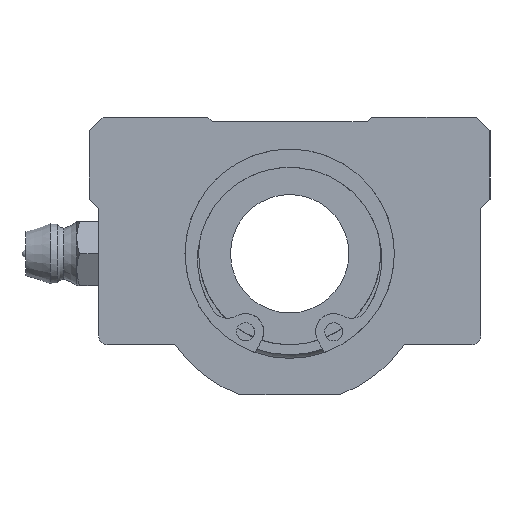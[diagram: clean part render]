
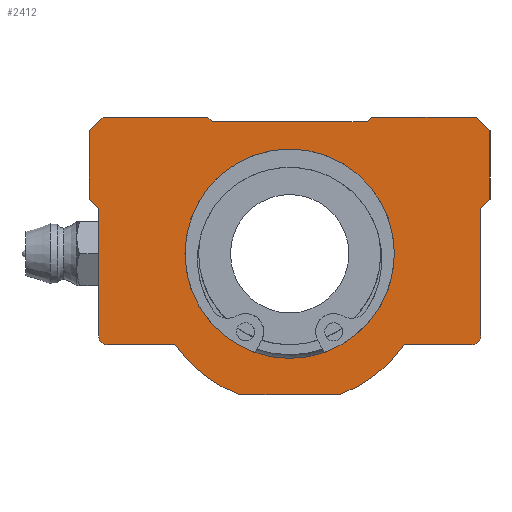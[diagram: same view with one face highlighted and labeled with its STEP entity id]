
A CAD part, left-side view. The second image highlights one B-rep face of the part: STEP entity #2412.
In plain terms, the highlighted planar face has unit normal (-1, 0, 0).
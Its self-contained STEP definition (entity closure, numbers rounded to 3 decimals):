
#1529=CARTESIAN_POINT('',(0.0,11.5,0.));
#1530=VERTEX_POINT('',#1529);
#1531=CARTESIAN_POINT('',(0.0,0.0,0.0));
#1532=DIRECTION('',(1.0,0.0,0.0));
#1533=DIRECTION('',(0.0,-1.0,0.0));
#1534=AXIS2_PLACEMENT_3D('',#1531,#1532,#1533);
#1535=CIRCLE('',#1534,11.5);
#1536=EDGE_CURVE('',#1530,#1530,#1535,.T.);
#1753=CARTESIAN_POINT('',(0.0,22.0,13.5));
#1754=VERTEX_POINT('',#1753);
#1769=CARTESIAN_POINT('',(0.0,22.0,6.));
#1770=VERTEX_POINT('',#1769);
#1777=CARTESIAN_POINT('',(0.0,22.0,6.));
#1778=DIRECTION('',(0.0,0.0,1.0));
#1779=VECTOR('',#1778,7.5);
#1780=LINE('',#1777,#1779);
#1781=EDGE_CURVE('',#1770,#1754,#1780,.T.);
#1791=CARTESIAN_POINT('',(0.0,21.,-9.));
#1792=VERTEX_POINT('',#1791);
#1801=CARTESIAN_POINT('',(0.0,21.,5.));
#1802=VERTEX_POINT('',#1801);
#1803=CARTESIAN_POINT('',(0.0,21.,-9.));
#1804=DIRECTION('',(0.0,0.0,1.0));
#1805=VECTOR('',#1804,14.);
#1806=LINE('',#1803,#1805);
#1807=EDGE_CURVE('',#1792,#1802,#1806,.T.);
#1892=CARTESIAN_POINT('',(0.0,5.477,-15.5));
#1893=VERTEX_POINT('',#1892);
#1900=CARTESIAN_POINT('',(0.0,12.619,-10.));
#1901=VERTEX_POINT('',#1900);
#1902=CARTESIAN_POINT('',(0.0,0.0,-1.0));
#1903=DIRECTION('',(1.0,0.0,0.0));
#1904=DIRECTION('',(0.0,0.353,-0.935));
#1905=AXIS2_PLACEMENT_3D('',#1902,#1903,#1904);
#1906=CIRCLE('',#1905,15.5);
#1907=EDGE_CURVE('',#1893,#1901,#1906,.T.);
#1931=CARTESIAN_POINT('',(0.0,-5.477,-15.5));
#1932=VERTEX_POINT('',#1931);
#1939=CARTESIAN_POINT('',(0.0,-5.477,-15.5));
#1940=DIRECTION('',(0.0,1.0,0.0));
#1941=VECTOR('',#1940,10.954);
#1942=LINE('',#1939,#1941);
#1943=EDGE_CURVE('',#1932,#1893,#1942,.T.);
#1963=CARTESIAN_POINT('',(0.0,-12.619,-10.));
#1964=VERTEX_POINT('',#1963);
#1971=CARTESIAN_POINT('',(0.0,0.0,-1.0));
#1972=DIRECTION('',(1.0,0.0,0.0));
#1973=DIRECTION('',(0.0,0.353,-0.935));
#1974=AXIS2_PLACEMENT_3D('',#1971,#1972,#1973);
#1975=CIRCLE('',#1974,15.5);
#1976=EDGE_CURVE('',#1964,#1932,#1975,.T.);
#1987=CARTESIAN_POINT('',(0.0,-20.,-10.));
#1988=VERTEX_POINT('',#1987);
#1997=CARTESIAN_POINT('',(0.0,-20.,-10.));
#1998=DIRECTION('',(0.0,1.0,0.0));
#1999=VECTOR('',#1998,7.381);
#2000=LINE('',#1997,#1999);
#2001=EDGE_CURVE('',#1988,#1964,#2000,.T.);
#2024=CARTESIAN_POINT('',(0.0,-22.0,13.5));
#2025=VERTEX_POINT('',#2024);
#2034=CARTESIAN_POINT('',(0.0,-22.0,6.));
#2035=VERTEX_POINT('',#2034);
#2036=CARTESIAN_POINT('',(0.0,-22.0,13.5));
#2037=DIRECTION('',(0.0,0.0,-1.0));
#2038=VECTOR('',#2037,7.5);
#2039=LINE('',#2036,#2038);
#2040=EDGE_CURVE('',#2025,#2035,#2039,.T.);
#2066=CARTESIAN_POINT('',(0.0,-20.5,15.));
#2067=VERTEX_POINT('',#2066);
#2082=CARTESIAN_POINT('',(0.0,-9.0,15.));
#2083=VERTEX_POINT('',#2082);
#2090=CARTESIAN_POINT('',(0.0,-9.0,15.));
#2091=DIRECTION('',(0.0,-1.0,0.0));
#2092=VECTOR('',#2091,11.5);
#2093=LINE('',#2090,#2092);
#2094=EDGE_CURVE('',#2083,#2067,#2093,.T.);
#2117=CARTESIAN_POINT('',(0.0,-20.5,15.));
#2118=DIRECTION('',(0.0,-0.707,-0.707));
#2119=VECTOR('',#2118,2.121);
#2120=LINE('',#2117,#2119);
#2121=EDGE_CURVE('',#2067,#2025,#2120,.T.);
#2132=CARTESIAN_POINT('',(0.0,20.5,15.));
#2133=VERTEX_POINT('',#2132);
#2142=CARTESIAN_POINT('',(0.0,9.0,15.));
#2143=VERTEX_POINT('',#2142);
#2144=CARTESIAN_POINT('',(0.0,20.5,15.));
#2145=DIRECTION('',(0.0,-1.0,0.0));
#2146=VECTOR('',#2145,11.5);
#2147=LINE('',#2144,#2146);
#2148=EDGE_CURVE('',#2133,#2143,#2147,.T.);
#2185=CARTESIAN_POINT('',(0.0,22.0,13.5));
#2186=DIRECTION('',(0.0,-0.707,0.707));
#2187=VECTOR('',#2186,2.121);
#2188=LINE('',#2185,#2187);
#2189=EDGE_CURVE('',#1754,#2133,#2188,.T.);
#2200=CARTESIAN_POINT('',(0.0,-8.5,14.5));
#2201=VERTEX_POINT('',#2200);
#2202=CARTESIAN_POINT('',(0.0,-8.5,14.5));
#2203=DIRECTION('',(0.0,-0.707,0.707));
#2204=VECTOR('',#2203,0.707);
#2205=LINE('',#2202,#2204);
#2206=EDGE_CURVE('',#2201,#2083,#2205,.T.);
#2231=CARTESIAN_POINT('',(0.0,8.5,14.5));
#2232=VERTEX_POINT('',#2231);
#2241=CARTESIAN_POINT('',(0.0,8.5,14.5));
#2242=DIRECTION('',(0.0,-1.0,0.0));
#2243=VECTOR('',#2242,17.);
#2244=LINE('',#2241,#2243);
#2245=EDGE_CURVE('',#2232,#2201,#2244,.T.);
#2262=CARTESIAN_POINT('',(0.0,9.0,15.));
#2263=DIRECTION('',(0.0,-0.707,-0.707));
#2264=VECTOR('',#2263,0.707);
#2265=LINE('',#2262,#2264);
#2266=EDGE_CURVE('',#2143,#2232,#2265,.T.);
#2284=CARTESIAN_POINT('',(0.0,-21.,5.));
#2285=VERTEX_POINT('',#2284);
#2286=CARTESIAN_POINT('',(0.0,-22.0,6.));
#2287=DIRECTION('',(0.0,0.707,-0.707));
#2288=VECTOR('',#2287,1.414);
#2289=LINE('',#2286,#2288);
#2290=EDGE_CURVE('',#2035,#2285,#2289,.T.);
#2315=CARTESIAN_POINT('',(0.0,21.,5.));
#2316=DIRECTION('',(0.0,0.707,0.707));
#2317=VECTOR('',#2316,1.414);
#2318=LINE('',#2315,#2317);
#2319=EDGE_CURVE('',#1802,#1770,#2318,.T.);
#2339=CARTESIAN_POINT('',(0.0,-21.,-9.));
#2340=VERTEX_POINT('',#2339);
#2354=CARTESIAN_POINT('',(0.0,-21.,5.));
#2355=DIRECTION('',(0.0,0.0,-1.0));
#2356=VECTOR('',#2355,14.);
#2357=LINE('',#2354,#2356);
#2358=EDGE_CURVE('',#2285,#2340,#2357,.T.);
#2363=CARTESIAN_POINT('',(0.0,0.,1.303));
#2364=DIRECTION('',(1.0,0.0,0.0));
#2365=DIRECTION('',(0.0,0.0,-1.0));
#2366=AXIS2_PLACEMENT_3D('',#2363,#2364,#2365);
#2367=PLANE('',#2366);
#2368=CARTESIAN_POINT('',(0.0,20.,-10.));
#2369=VERTEX_POINT('',#2368);
#2370=CARTESIAN_POINT('',(0.0,20.,-9.));
#2371=DIRECTION('',(1.0,0.0,0.0));
#2372=DIRECTION('',(0.0,0.707,-0.707));
#2373=AXIS2_PLACEMENT_3D('',#2370,#2371,#2372);
#2374=CIRCLE('',#2373,1.);
#2375=EDGE_CURVE('',#2369,#1792,#2374,.T.);
#2376=ORIENTED_EDGE('',*,*,#2375,.F.);
#2377=CARTESIAN_POINT('',(0.0,12.619,-10.));
#2378=DIRECTION('',(0.0,1.0,0.0));
#2379=VECTOR('',#2378,7.381);
#2380=LINE('',#2377,#2379);
#2381=EDGE_CURVE('',#1901,#2369,#2380,.T.);
#2382=ORIENTED_EDGE('',*,*,#2381,.F.);
#2383=ORIENTED_EDGE('',*,*,#1907,.F.);
#2384=ORIENTED_EDGE('',*,*,#1943,.F.);
#2385=ORIENTED_EDGE('',*,*,#1976,.F.);
#2386=ORIENTED_EDGE('',*,*,#2001,.F.);
#2387=CARTESIAN_POINT('',(0.0,-20.,-9.));
#2388=DIRECTION('',(1.0,0.0,0.0));
#2389=DIRECTION('',(0.0,-0.707,-0.707));
#2390=AXIS2_PLACEMENT_3D('',#2387,#2388,#2389);
#2391=CIRCLE('',#2390,1.);
#2392=EDGE_CURVE('',#2340,#1988,#2391,.T.);
#2393=ORIENTED_EDGE('',*,*,#2392,.F.);
#2394=ORIENTED_EDGE('',*,*,#2358,.F.);
#2395=ORIENTED_EDGE('',*,*,#2290,.F.);
#2396=ORIENTED_EDGE('',*,*,#2040,.F.);
#2397=ORIENTED_EDGE('',*,*,#2121,.F.);
#2398=ORIENTED_EDGE('',*,*,#2094,.F.);
#2399=ORIENTED_EDGE('',*,*,#2206,.F.);
#2400=ORIENTED_EDGE('',*,*,#2245,.F.);
#2401=ORIENTED_EDGE('',*,*,#2266,.F.);
#2402=ORIENTED_EDGE('',*,*,#2148,.F.);
#2403=ORIENTED_EDGE('',*,*,#2189,.F.);
#2404=ORIENTED_EDGE('',*,*,#1781,.F.);
#2405=ORIENTED_EDGE('',*,*,#2319,.F.);
#2406=ORIENTED_EDGE('',*,*,#1807,.F.);
#2407=EDGE_LOOP('',(#2376,#2382,#2383,#2384,#2385,#2386,#2393,#2394,#2395,#2396,#2397,#2398,#2399,#2400,#2401,#2402,#2403,#2404,#2405,#2406));
#2408=FACE_OUTER_BOUND('',#2407,.T.);
#2409=ORIENTED_EDGE('',*,*,#1536,.T.);
#2410=EDGE_LOOP('',(#2409));
#2411=FACE_BOUND('',#2410,.T.);
#2412=ADVANCED_FACE('',(#2408,#2411),#2367,.F.);
